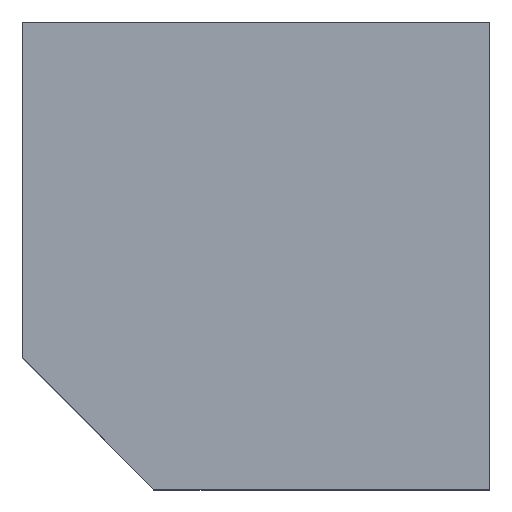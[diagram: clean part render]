
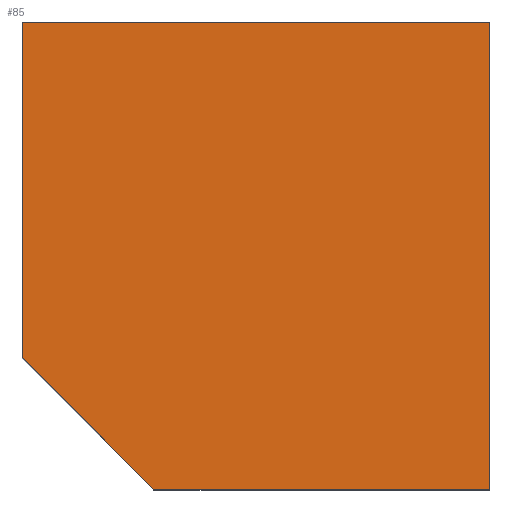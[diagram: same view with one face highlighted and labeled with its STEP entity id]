
A CAD part, top view. The second image highlights one B-rep face of the part: STEP entity #85.
In plain terms, the highlighted planar face has unit normal (0, 0, 1).
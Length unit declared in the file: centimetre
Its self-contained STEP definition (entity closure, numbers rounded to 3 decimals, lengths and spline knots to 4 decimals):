
#16 = EDGE_CURVE ( 'NONE', #267, #130, #349, .T. ) ;
#27 = LINE ( 'NONE', #127, #178 ) ;
#29 = DIRECTION ( 'NONE',  ( 1., 0., 0. ) ) ;
#53 = LINE ( 'NONE', #272, #73 ) ;
#55 = CARTESIAN_POINT ( 'NONE',  ( 0., 0., 1000. ) ) ;
#59 = DIRECTION ( 'NONE',  ( 0.707, -0.707, 0. ) ) ;
#63 = VECTOR ( 'NONE', #29, 100. ) ;
#65 = PLANE ( 'NONE',  #337 ) ;
#69 = EDGE_CURVE ( 'NONE', #301, #254, #27, .T. ) ;
#71 = EDGE_CURVE ( 'NONE', #101, #267, #251, .T. ) ;
#73 = VECTOR ( 'NONE', #247, 100. ) ;
#85 = ADVANCED_FACE ( 'NONE', ( #97 ), #65, .T. ) ;
#88 = CARTESIAN_POINT ( 'NONE',  ( 0., 281.4673, 1000. ) ) ;
#97 = FACE_OUTER_BOUND ( 'NONE', #105, .T. ) ;
#101 = VERTEX_POINT ( 'NONE', #340 ) ;
#105 = EDGE_LOOP ( 'NONE', ( #381, #390, #344, #143, #163 ) ) ;
#127 = CARTESIAN_POINT ( 'NONE',  ( 140.7336, 140.7336, 1000. ) ) ;
#130 = VERTEX_POINT ( 'NONE', #157 ) ;
#132 = VECTOR ( 'NONE', #225, 100. ) ;
#143 = ORIENTED_EDGE ( 'NONE', *, *, #71, .T. ) ;
#154 = DIRECTION ( 'NONE',  ( 0., 1., 0. ) ) ;
#157 = CARTESIAN_POINT ( 'NONE',  ( 0., 1000., 1000. ) ) ;
#163 = ORIENTED_EDGE ( 'NONE', *, *, #16, .T. ) ;
#178 = VECTOR ( 'NONE', #59, 100. ) ;
#185 = CARTESIAN_POINT ( 'NONE',  ( 0., 0., 1000. ) ) ;
#188 = CARTESIAN_POINT ( 'NONE',  ( 0., 1000., 1000. ) ) ;
#207 = EDGE_CURVE ( 'NONE', #130, #301, #53, .T. ) ;
#224 = EDGE_CURVE ( 'NONE', #254, #101, #341, .T. ) ;
#225 = DIRECTION ( 'NONE',  ( -1., 0., 0. ) ) ;
#247 = DIRECTION ( 'NONE',  ( 0., -1., 0. ) ) ;
#249 = CARTESIAN_POINT ( 'NONE',  ( 1000., 1000., 1000. ) ) ;
#251 = LINE ( 'NONE', #372, #410 ) ;
#254 = VERTEX_POINT ( 'NONE', #373 ) ;
#267 = VERTEX_POINT ( 'NONE', #249 ) ;
#272 = CARTESIAN_POINT ( 'NONE',  ( 0., 1000., 1000. ) ) ;
#277 = DIRECTION ( 'NONE',  ( 0., 0., 1. ) ) ;
#301 = VERTEX_POINT ( 'NONE', #88 ) ;
#314 = DIRECTION ( 'NONE',  ( 1., 0., 0. ) ) ;
#337 = AXIS2_PLACEMENT_3D ( 'NONE', #185, #277, #314 ) ;
#340 = CARTESIAN_POINT ( 'NONE',  ( 1000., 0., 1000. ) ) ;
#341 = LINE ( 'NONE', #55, #63 ) ;
#344 = ORIENTED_EDGE ( 'NONE', *, *, #224, .T. ) ;
#349 = LINE ( 'NONE', #188, #132 ) ;
#372 = CARTESIAN_POINT ( 'NONE',  ( 1000., 1000., 1000. ) ) ;
#373 = CARTESIAN_POINT ( 'NONE',  ( 281.4673, 0., 1000. ) ) ;
#381 = ORIENTED_EDGE ( 'NONE', *, *, #207, .T. ) ;
#390 = ORIENTED_EDGE ( 'NONE', *, *, #69, .T. ) ;
#410 = VECTOR ( 'NONE', #154, 100. ) ;
